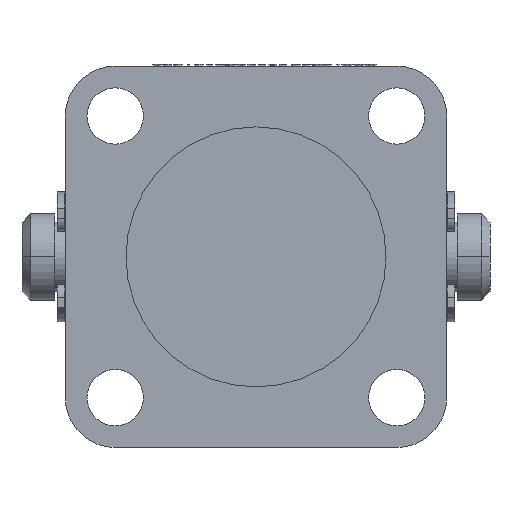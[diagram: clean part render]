
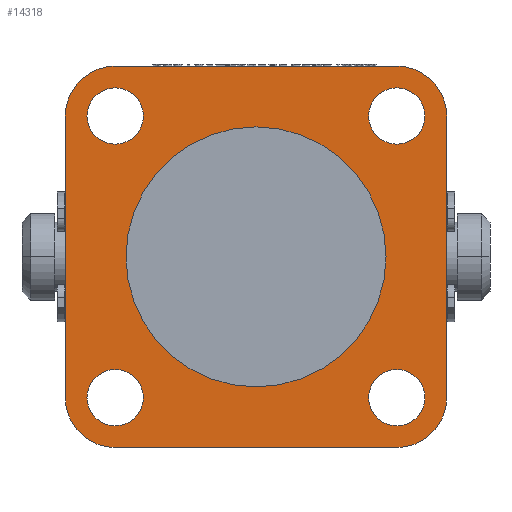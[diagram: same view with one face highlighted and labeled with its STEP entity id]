
A CAD part, left-side view. The second image highlights one B-rep face of the part: STEP entity #14318.
In plain terms, the highlighted planar face has unit normal (-1, 0, 0).
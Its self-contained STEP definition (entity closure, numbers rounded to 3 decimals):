
#14091=CARTESIAN_POINT('Vertex',(-9.,22.,-16.25)) ;
#14094=CARTESIAN_POINT('Line Origine',(-9.,22.,0.)) ;
#14098=CARTESIAN_POINT('Vertex',(-9.,22.,16.25)) ;
#14166=CARTESIAN_POINT('Axis2P3D Location',(-9.,0.,0.)) ;
#14171=CARTESIAN_POINT('Line Origine',(-9.,0.,22.)) ;
#14175=CARTESIAN_POINT('Vertex',(-9.,16.25,22.)) ;
#14177=CARTESIAN_POINT('Vertex',(-9.,-16.25,22.)) ;
#14180=CARTESIAN_POINT('Axis2P3D Location',(-9.,16.25,16.25)) ;
#14185=CARTESIAN_POINT('Axis2P3D Location',(-9.,16.25,-16.25)) ;
#14189=CARTESIAN_POINT('Vertex',(-9.,16.25,-22.)) ;
#14192=CARTESIAN_POINT('Line Origine',(-9.,0.,-22.)) ;
#14196=CARTESIAN_POINT('Vertex',(-9.,-16.25,-22.)) ;
#14199=CARTESIAN_POINT('Axis2P3D Location',(-9.,-16.25,-16.25)) ;
#14203=CARTESIAN_POINT('Vertex',(-9.,-22.,-16.25)) ;
#14206=CARTESIAN_POINT('Line Origine',(-9.,-22.,0.)) ;
#14210=CARTESIAN_POINT('Vertex',(-9.,-22.,16.25)) ;
#14213=CARTESIAN_POINT('Axis2P3D Location',(-9.,-16.25,16.25)) ;
#14228=CARTESIAN_POINT('Axis2P3D Location',(-9.,0.,0.)) ;
#14232=CARTESIAN_POINT('Vertex',(-9.,15.,0.)) ;
#14234=CARTESIAN_POINT('Vertex',(-9.,-15.,0.)) ;
#14237=CARTESIAN_POINT('Axis2P3D Location',(-9.,0.,0.)) ;
#14246=CARTESIAN_POINT('Axis2P3D Location',(-9.,16.25,16.25)) ;
#14250=CARTESIAN_POINT('Vertex',(-9.,19.5,16.25)) ;
#14252=CARTESIAN_POINT('Vertex',(-9.,13.,16.25)) ;
#14255=CARTESIAN_POINT('Axis2P3D Location',(-9.,16.25,16.25)) ;
#14264=CARTESIAN_POINT('Axis2P3D Location',(-9.,-16.25,16.25)) ;
#14268=CARTESIAN_POINT('Vertex',(-9.,-13.,16.25)) ;
#14270=CARTESIAN_POINT('Vertex',(-9.,-19.5,16.25)) ;
#14273=CARTESIAN_POINT('Axis2P3D Location',(-9.,-16.25,16.25)) ;
#14282=CARTESIAN_POINT('Axis2P3D Location',(-9.,16.25,-16.25)) ;
#14286=CARTESIAN_POINT('Vertex',(-9.,19.5,-16.25)) ;
#14288=CARTESIAN_POINT('Vertex',(-9.,13.,-16.25)) ;
#14291=CARTESIAN_POINT('Axis2P3D Location',(-9.,16.25,-16.25)) ;
#14300=CARTESIAN_POINT('Axis2P3D Location',(-9.,-16.25,-16.25)) ;
#14304=CARTESIAN_POINT('Vertex',(-9.,-13.,-16.25)) ;
#14306=CARTESIAN_POINT('Vertex',(-9.,-19.5,-16.25)) ;
#14309=CARTESIAN_POINT('Axis2P3D Location',(-9.,-16.25,-16.25)) ;
#14095=DIRECTION('Vector Direction',(0.,0.,1.)) ;
#14167=DIRECTION('Axis2P3D Direction',(1.,0.,0.)) ;
#14168=DIRECTION('Axis2P3D XDirection',(0.,1.,0.)) ;
#14172=DIRECTION('Vector Direction',(0.,1.,0.)) ;
#14181=DIRECTION('Axis2P3D Direction',(1.,0.,0.)) ;
#14186=DIRECTION('Axis2P3D Direction',(1.,0.,0.)) ;
#14193=DIRECTION('Vector Direction',(0.,-1.,0.)) ;
#14200=DIRECTION('Axis2P3D Direction',(1.,0.,0.)) ;
#14207=DIRECTION('Vector Direction',(0.,0.,-1.)) ;
#14214=DIRECTION('Axis2P3D Direction',(1.,0.,0.)) ;
#14229=DIRECTION('Axis2P3D Direction',(1.,0.,0.)) ;
#14238=DIRECTION('Axis2P3D Direction',(1.,0.,0.)) ;
#14247=DIRECTION('Axis2P3D Direction',(1.,0.,0.)) ;
#14256=DIRECTION('Axis2P3D Direction',(1.,0.,0.)) ;
#14265=DIRECTION('Axis2P3D Direction',(1.,0.,0.)) ;
#14274=DIRECTION('Axis2P3D Direction',(1.,0.,0.)) ;
#14283=DIRECTION('Axis2P3D Direction',(1.,0.,0.)) ;
#14292=DIRECTION('Axis2P3D Direction',(1.,0.,0.)) ;
#14301=DIRECTION('Axis2P3D Direction',(1.,0.,0.)) ;
#14310=DIRECTION('Axis2P3D Direction',(1.,0.,0.)) ;
#14169=AXIS2_PLACEMENT_3D('Plane Axis2P3D',#14166,#14167,#14168) ;
#14182=AXIS2_PLACEMENT_3D('Circle Axis2P3D',#14180,#14181,$) ;
#14187=AXIS2_PLACEMENT_3D('Circle Axis2P3D',#14185,#14186,$) ;
#14201=AXIS2_PLACEMENT_3D('Circle Axis2P3D',#14199,#14200,$) ;
#14215=AXIS2_PLACEMENT_3D('Circle Axis2P3D',#14213,#14214,$) ;
#14230=AXIS2_PLACEMENT_3D('Circle Axis2P3D',#14228,#14229,$) ;
#14239=AXIS2_PLACEMENT_3D('Circle Axis2P3D',#14237,#14238,$) ;
#14248=AXIS2_PLACEMENT_3D('Circle Axis2P3D',#14246,#14247,$) ;
#14257=AXIS2_PLACEMENT_3D('Circle Axis2P3D',#14255,#14256,$) ;
#14266=AXIS2_PLACEMENT_3D('Circle Axis2P3D',#14264,#14265,$) ;
#14275=AXIS2_PLACEMENT_3D('Circle Axis2P3D',#14273,#14274,$) ;
#14284=AXIS2_PLACEMENT_3D('Circle Axis2P3D',#14282,#14283,$) ;
#14293=AXIS2_PLACEMENT_3D('Circle Axis2P3D',#14291,#14292,$) ;
#14302=AXIS2_PLACEMENT_3D('Circle Axis2P3D',#14300,#14301,$) ;
#14311=AXIS2_PLACEMENT_3D('Circle Axis2P3D',#14309,#14310,$) ;
#14219=ORIENTED_EDGE('',*,*,#14179,.F.) ;
#14220=ORIENTED_EDGE('',*,*,#14184,.F.) ;
#14221=ORIENTED_EDGE('',*,*,#14100,.F.) ;
#14222=ORIENTED_EDGE('',*,*,#14191,.F.) ;
#14223=ORIENTED_EDGE('',*,*,#14198,.F.) ;
#14224=ORIENTED_EDGE('',*,*,#14205,.F.) ;
#14225=ORIENTED_EDGE('',*,*,#14212,.F.) ;
#14226=ORIENTED_EDGE('',*,*,#14217,.F.) ;
#14243=ORIENTED_EDGE('',*,*,#14236,.F.) ;
#14244=ORIENTED_EDGE('',*,*,#14241,.F.) ;
#14261=ORIENTED_EDGE('',*,*,#14254,.T.) ;
#14262=ORIENTED_EDGE('',*,*,#14259,.T.) ;
#14279=ORIENTED_EDGE('',*,*,#14272,.T.) ;
#14280=ORIENTED_EDGE('',*,*,#14277,.T.) ;
#14297=ORIENTED_EDGE('',*,*,#14290,.T.) ;
#14298=ORIENTED_EDGE('',*,*,#14295,.T.) ;
#14315=ORIENTED_EDGE('',*,*,#14308,.T.) ;
#14316=ORIENTED_EDGE('',*,*,#14313,.T.) ;
#14245=FACE_BOUND('',#14242,.T.) ;
#14263=FACE_BOUND('',#14260,.T.) ;
#14281=FACE_BOUND('',#14278,.T.) ;
#14299=FACE_BOUND('',#14296,.T.) ;
#14317=FACE_BOUND('',#14314,.T.) ;
#14096=VECTOR('Line Direction',#14095,1.) ;
#14173=VECTOR('Line Direction',#14172,1.) ;
#14194=VECTOR('Line Direction',#14193,1.) ;
#14208=VECTOR('Line Direction',#14207,1.) ;
#14318=ADVANCED_FACE('PartBody',(#14227,#14245,#14263,#14281,#14299,#14317),#14170,.F.) ;
#14183=CIRCLE('generated circle',#14182,5.75) ;
#14188=CIRCLE('generated circle',#14187,5.75) ;
#14202=CIRCLE('generated circle',#14201,5.75) ;
#14216=CIRCLE('generated circle',#14215,5.75) ;
#14231=CIRCLE('generated circle',#14230,15.) ;
#14240=CIRCLE('generated circle',#14239,15.) ;
#14249=CIRCLE('generated circle',#14248,3.25) ;
#14258=CIRCLE('generated circle',#14257,3.25) ;
#14267=CIRCLE('generated circle',#14266,3.25) ;
#14276=CIRCLE('generated circle',#14275,3.25) ;
#14285=CIRCLE('generated circle',#14284,3.25) ;
#14294=CIRCLE('generated circle',#14293,3.25) ;
#14303=CIRCLE('generated circle',#14302,3.25) ;
#14312=CIRCLE('generated circle',#14311,3.25) ;
#14100=EDGE_CURVE('',#14092,#14099,#14097,.T.) ;
#14179=EDGE_CURVE('',#14176,#14178,#14174,.F.) ;
#14184=EDGE_CURVE('',#14099,#14176,#14183,.T.) ;
#14191=EDGE_CURVE('',#14190,#14092,#14188,.T.) ;
#14198=EDGE_CURVE('',#14197,#14190,#14195,.F.) ;
#14205=EDGE_CURVE('',#14204,#14197,#14202,.T.) ;
#14212=EDGE_CURVE('',#14211,#14204,#14209,.T.) ;
#14217=EDGE_CURVE('',#14178,#14211,#14216,.T.) ;
#14236=EDGE_CURVE('',#14233,#14235,#14231,.F.) ;
#14241=EDGE_CURVE('',#14235,#14233,#14240,.F.) ;
#14254=EDGE_CURVE('',#14251,#14253,#14249,.T.) ;
#14259=EDGE_CURVE('',#14253,#14251,#14258,.T.) ;
#14272=EDGE_CURVE('',#14269,#14271,#14267,.T.) ;
#14277=EDGE_CURVE('',#14271,#14269,#14276,.T.) ;
#14290=EDGE_CURVE('',#14287,#14289,#14285,.T.) ;
#14295=EDGE_CURVE('',#14289,#14287,#14294,.T.) ;
#14308=EDGE_CURVE('',#14305,#14307,#14303,.T.) ;
#14313=EDGE_CURVE('',#14307,#14305,#14312,.T.) ;
#14218=EDGE_LOOP('',(#14219,#14220,#14221,#14222,#14223,#14224,#14225,#14226)) ;
#14242=EDGE_LOOP('',(#14243,#14244)) ;
#14260=EDGE_LOOP('',(#14261,#14262)) ;
#14278=EDGE_LOOP('',(#14279,#14280)) ;
#14296=EDGE_LOOP('',(#14297,#14298)) ;
#14314=EDGE_LOOP('',(#14315,#14316)) ;
#14227=FACE_OUTER_BOUND('',#14218,.T.) ;
#14097=LINE('Line',#14094,#14096) ;
#14174=LINE('Line',#14171,#14173) ;
#14195=LINE('Line',#14192,#14194) ;
#14209=LINE('Line',#14206,#14208) ;
#14170=PLANE('',#14169) ;
#14092=VERTEX_POINT('',#14091) ;
#14099=VERTEX_POINT('',#14098) ;
#14176=VERTEX_POINT('',#14175) ;
#14178=VERTEX_POINT('',#14177) ;
#14190=VERTEX_POINT('',#14189) ;
#14197=VERTEX_POINT('',#14196) ;
#14204=VERTEX_POINT('',#14203) ;
#14211=VERTEX_POINT('',#14210) ;
#14233=VERTEX_POINT('',#14232) ;
#14235=VERTEX_POINT('',#14234) ;
#14251=VERTEX_POINT('',#14250) ;
#14253=VERTEX_POINT('',#14252) ;
#14269=VERTEX_POINT('',#14268) ;
#14271=VERTEX_POINT('',#14270) ;
#14287=VERTEX_POINT('',#14286) ;
#14289=VERTEX_POINT('',#14288) ;
#14305=VERTEX_POINT('',#14304) ;
#14307=VERTEX_POINT('',#14306) ;
